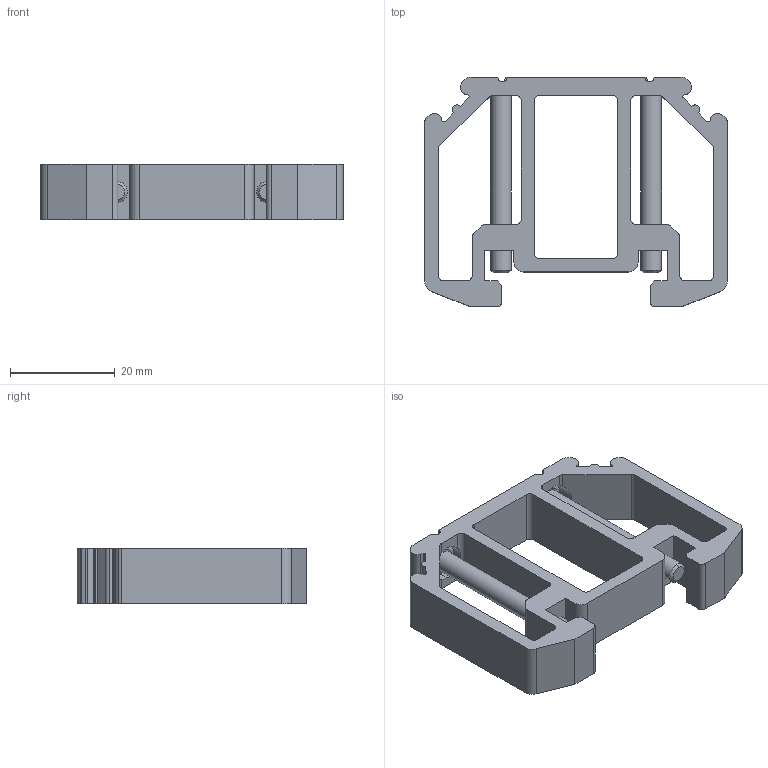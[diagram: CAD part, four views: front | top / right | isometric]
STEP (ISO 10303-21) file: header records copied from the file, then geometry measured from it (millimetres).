
FILE_DESCRIPTION (( 'STEP AP214' ), '1' );
FILE_NAME ('T 40 CL.STEP', '2024-05-30T06:28:20', ( '' ), ( '' ), 'SwSTEP 2.0', 'SolidWorks 2022', '' );
FILE_SCHEMA (( 'AUTOMOTIVE_DESIGN' ));
Length unit declared in the file: millimetre
Products named in the file (1): T 40 CL
Bounding box: 57.84 x 43.9 x 10.6 mm (x, y, z)
Volume: 9494.2 mm3; surface area: 8342.3 mm2
Topology: 3 solids, 3 shells, 179 faces, 511 edges, 338 vertices
Faces by surface type: plane 98, cylinder 65, torus 8, cone 4, bspline 4
Entity records: 9251 total; most frequent: CARTESIAN_POINT 4423, ORIENTED_EDGE 1022, DIRECTION 987, EDGE_CURVE 511, VERTEX_POINT 338, AXIS2_PLACEMENT_3D 334, LINE 319, VECTOR 319
